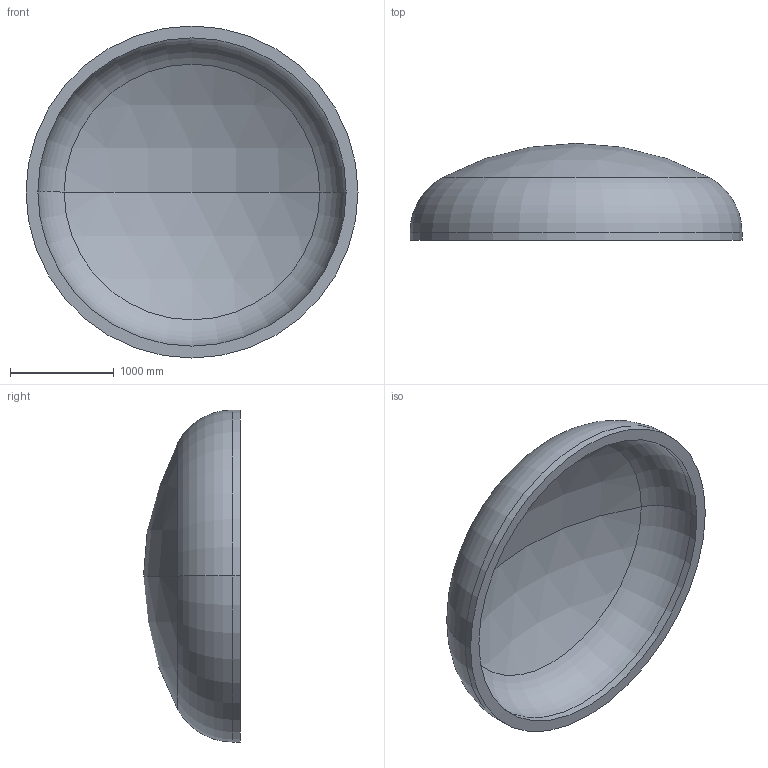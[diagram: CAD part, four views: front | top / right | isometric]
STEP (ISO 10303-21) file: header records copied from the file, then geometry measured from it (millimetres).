
FILE_DESCRIPTION (( 'STEP AP203' ), '1' );
FILE_NAME ('DIN 28013 Korbbogenform_-_Boden DIN 28013 - 3200 x 75 - I - s=114.step', '2016-07-01T19:02:48', ( '' ), ( '' ), 'SwSTEP 2.0', 'SolidWorks 2013', '' );
FILE_SCHEMA (( 'CONFIG_CONTROL_DESIGN' ));
Length unit declared in the file: millimetre
Products named in the file (1): DIN 28013 Korbbogenform_-_Boden DIN 28013 - 3200 x 75 - I - s=114
Bounding box: 3200 x 934.37 x 3200 mm (x, y, z)
Volume: 1293830055.6 mm3; surface area: 23831209.1 mm2
Topology: 1 solids, 1 shells, 13 faces, 24 edges, 14 vertices
Faces by surface type: torus 4, cylinder 4, sphere 4, plane 1
Entity records: 407 total; most frequent: DIRECTION 72, CARTESIAN_POINT 52, ORIENTED_EDGE 48, AXIS2_PLACEMENT_3D 34, EDGE_CURVE 24, CIRCLE 20, VERTEX_POINT 14, EDGE_LOOP 14
